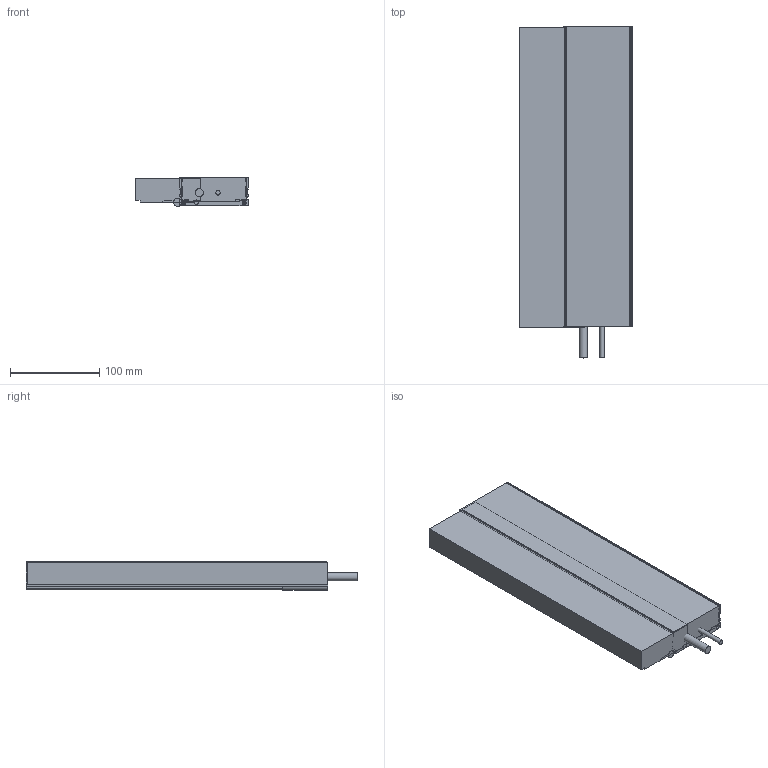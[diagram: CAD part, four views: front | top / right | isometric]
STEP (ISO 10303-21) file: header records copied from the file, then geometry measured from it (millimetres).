
FILE_DESCRIPTION( ( 'Unknown' ), '1' );
FILE_NAME( 'ML1118_01.stp', 'Unknown', ( 'Unknown' ), ( 'Unknown' ), 'XStep 1.0', 'Unknown', ' ' );
FILE_SCHEMA( ( 'CONFIG_CONTROL_DESIGN' ) );
Length unit declared in the file: millimetre
Products named in the file (9): Assem1; 4022 362 72863; 4022 363 05671; Kabels; GietharsTL18
Bounding box: 126.18 x 371 x 32.07 mm (x, y, z)
Surface area: 391080.5 mm2
Topology: 16 solids, 16 shells, 1008 faces, 2908 edges, 1932 vertices
Faces by surface type: plane 792, cylinder 216
Full cylindrical faces by diameter (mm): 2.5 x8, 4.2 x20, 5 x6, 9.2 x2
Entity records: 16662 total; most frequent: CARTESIAN_POINT 2877, ORIENTED_EDGE 2832, DIRECTION 2686, EDGE_CURVE 1416, LINE 1172, VECTOR 1172, VERTEX_POINT 948, AXIS2_PLACEMENT_3D 757
